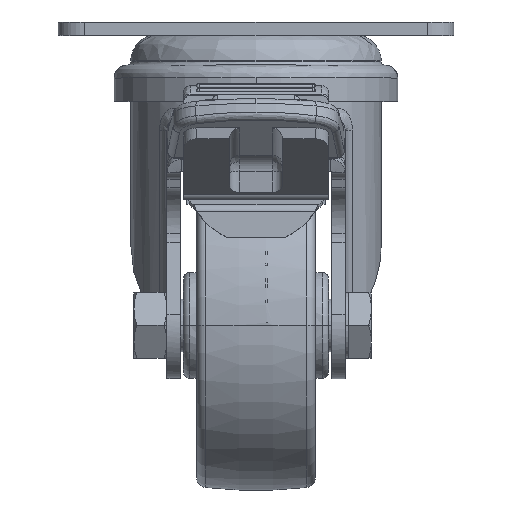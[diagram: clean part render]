
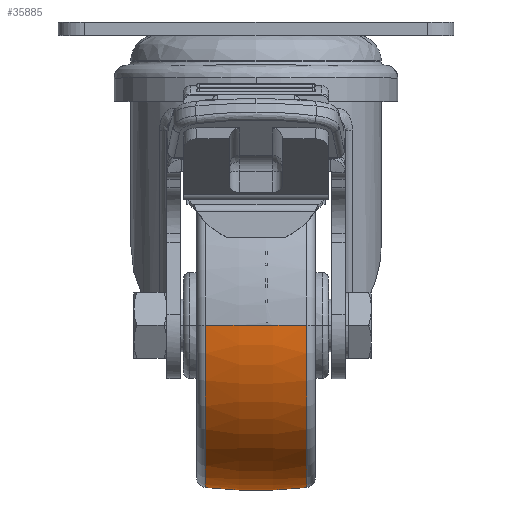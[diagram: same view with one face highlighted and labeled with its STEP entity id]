
A CAD part, top view. The second image highlights one B-rep face of the part: STEP entity #35885.
In plain terms, the highlighted toroidal (fillet/blend) face has major radius 45 mm and minor radius 70 mm.
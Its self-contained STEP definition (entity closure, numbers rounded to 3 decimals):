
#10673 = CIRCLE ( 'NONE', #56410, 70. ) ;
#10674 = CIRCLE ( 'NONE', #56408, 70. ) ;
#10676 = CIRCLE ( 'NONE', #56412, 24.579 ) ;
#10678 = CIRCLE ( 'NONE', #56414, 24.579 ) ;
#18735 = AXIS2_PLACEMENT_3D ( 'NONE', #69314, #69313, #69323 ) ;
#20837 = FACE_OUTER_BOUND ( 'NONE', #24183, .T. ) ;
#20844 = TOROIDAL_SURFACE ( 'NONE', #18735, -45., 70. ) ;
#21150 = VERTEX_POINT ( 'NONE', #54476 ) ;
#21157 = VERTEX_POINT ( 'NONE', #54488 ) ;
#21161 = VERTEX_POINT ( 'NONE', #54495 ) ;
#21211 = VERTEX_POINT ( 'NONE', #54581 ) ;
#24183 = EDGE_LOOP ( 'NONE', ( #36611, #36612, #36613, #36614 ) ) ;
#35885 = ADVANCED_FACE ( 'NONE', ( #20837 ), #20844, .T. ) ;
#36611 = ORIENTED_EDGE ( 'NONE', *, *, #38967, .F. ) ;
#36612 = ORIENTED_EDGE ( 'NONE', *, *, #38972, .T. ) ;
#36613 = ORIENTED_EDGE ( 'NONE', *, *, #38965, .T. ) ;
#36614 = ORIENTED_EDGE ( 'NONE', *, *, #38977, .F. ) ;
#38965 = EDGE_CURVE ( 'NONE', #21211, #21157, #10673, .T. ) ;
#38967 = EDGE_CURVE ( 'NONE', #21161, #21150, #10674, .T. ) ;
#38972 = EDGE_CURVE ( 'NONE', #21161, #21211, #10676, .T. ) ;
#38977 = EDGE_CURVE ( 'NONE', #21150, #21157, #10678, .T. ) ;
#51460 = CARTESIAN_POINT ( 'NONE',  ( 0., 0., -45. ) ) ;
#51462 = DIRECTION ( 'NONE',  ( 0., -1., 0. ) ) ;
#51463 = DIRECTION ( 'NONE',  ( 0., 0., -1. ) ) ;
#51464 = CARTESIAN_POINT ( 'NONE',  ( 0., 0., 45. ) ) ;
#51465 = CARTESIAN_POINT ( 'NONE',  ( 7.664, 0., 0. ) ) ;
#51466 = DIRECTION ( 'NONE',  ( 0., 1., 0. ) ) ;
#51467 = DIRECTION ( 'NONE',  ( 0., 0., 1. ) ) ;
#51471 = CARTESIAN_POINT ( 'NONE',  ( -7.664, 0., 0. ) ) ;
#51472 = DIRECTION ( 'NONE',  ( -1., 0., 0. ) ) ;
#51473 = DIRECTION ( 'NONE',  ( 0., 0., 1. ) ) ;
#51478 = DIRECTION ( 'NONE',  ( -1., 0., 0. ) ) ;
#51479 = DIRECTION ( 'NONE',  ( 0., 0., 1. ) ) ;
#54476 = CARTESIAN_POINT ( 'NONE',  ( -7.664, 0., -24.579 ) ) ;
#54488 = CARTESIAN_POINT ( 'NONE',  ( -7.664, 0., 24.579 ) ) ;
#54495 = CARTESIAN_POINT ( 'NONE',  ( 7.664, 0., -24.579 ) ) ;
#54581 = CARTESIAN_POINT ( 'NONE',  ( 7.664, 0., 24.579 ) ) ;
#56408 = AXIS2_PLACEMENT_3D ( 'NONE', #51464, #51466, #51467 ) ;
#56410 = AXIS2_PLACEMENT_3D ( 'NONE', #51460, #51462, #51463 ) ;
#56412 = AXIS2_PLACEMENT_3D ( 'NONE', #51465, #51472, #51473 ) ;
#56414 = AXIS2_PLACEMENT_3D ( 'NONE', #51471, #51478, #51479 ) ;
#69313 = DIRECTION ( 'NONE',  ( -1., 0., 0. ) ) ;
#69314 = CARTESIAN_POINT ( 'NONE',  ( 0., 0., 0. ) ) ;
#69323 = DIRECTION ( 'NONE',  ( 0., 0., 1. ) ) ;
